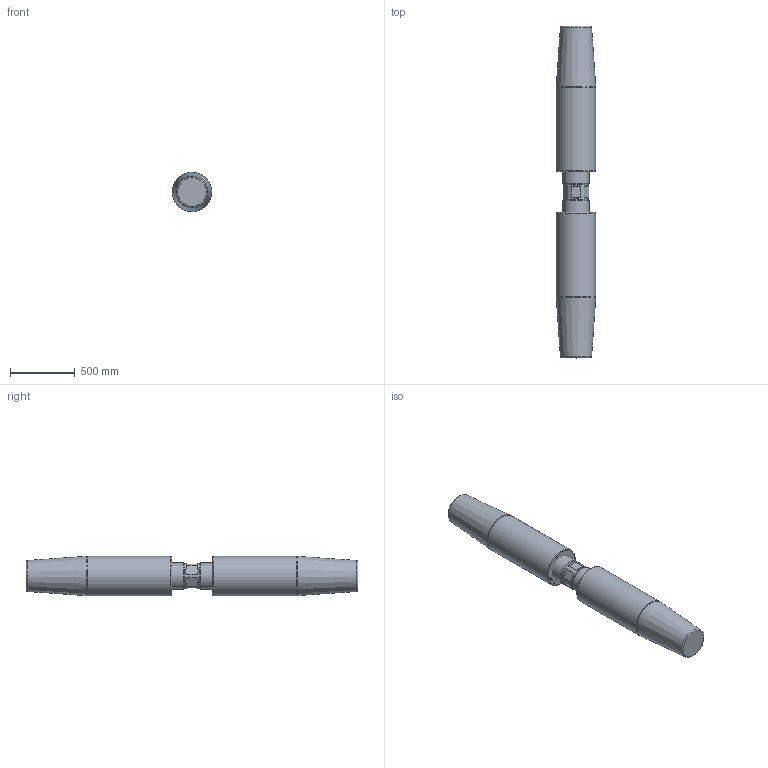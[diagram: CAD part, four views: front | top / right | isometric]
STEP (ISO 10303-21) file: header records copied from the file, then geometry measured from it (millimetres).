
FILE_DESCRIPTION(/* description */ (''),/* implementation_level */ '2;1');
FILE_NAME(/* name */ 'D:\Clienti\Redaelli (inventor)\CYA\STEP\Arrangement\CYA104 52 061 2.stp',/* time_stamp */ '2021-05-09T10:34:30+02:00',/* author */ ('fabri'),/* organization */ (''),/* preprocessor_version */ 'ST-DEVELOPER v16.13',/* originating_system */ 'Autodesk Inventor 2018',/* authorisation */ '');
FILE_SCHEMA (('AUTOMOTIVE_DESIGN { 1 0 10303 214 3 1 1 }'));
Length unit declared in the file: millimetre
Products named in the file (4): CYA012-54-062-0; TBF012-12-012-1; TBF012-13-012-0; TBF012-13-012-0_1
Assembly tree (3 placements, depth 2):
  CYA012-54-062-0
    TBF012-12-012-1
    TBF012-13-012-0
    TBF012-13-012-0_1
Bounding box: 304.8 x 2564 x 304.8 mm (x, y, z)
Volume: 186998482.7 mm3; surface area: 3082635 mm2
Topology: 3 solids, 3 shells, 475 faces, 1263 edges, 840 vertices
Faces by surface type: plane 237, bspline 195, cylinder 25, cone 14, torus 4
Full cylindrical faces by diameter (mm): 13.835 x6, 17.294 x2, 199 x1, 205 x2, 305 x2
Entity records: 15991 total; most frequent: CARTESIAN_POINT 5559, ORIENTED_EDGE 2448, DIRECTION 1426, EDGE_CURVE 1224, VERTEX_POINT 832, LINE 772, VECTOR 772, EDGE_LOOP 552
